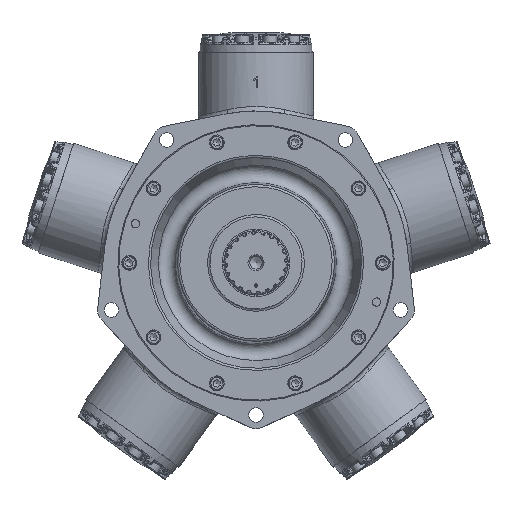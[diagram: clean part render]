
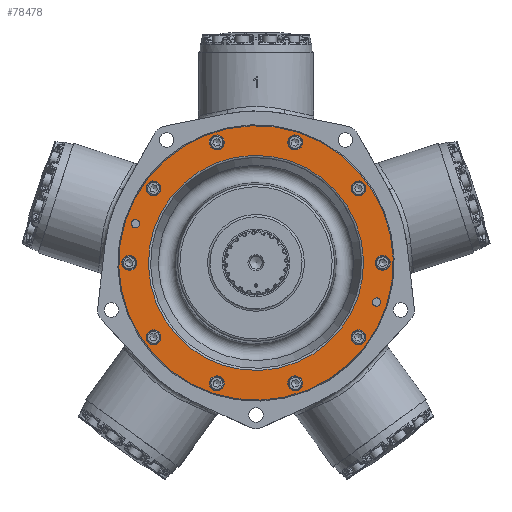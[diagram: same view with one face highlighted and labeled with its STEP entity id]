
A CAD part, top view. The second image highlights one B-rep face of the part: STEP entity #78478.
In plain terms, the highlighted planar face has unit normal (0, 0, 1).
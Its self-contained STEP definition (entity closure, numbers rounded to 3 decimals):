
#1834=FACE_BOUND('',#19168,.T.);
#1835=FACE_BOUND('',#19169,.T.);
#1836=FACE_BOUND('',#19170,.T.);
#1837=FACE_BOUND('',#19171,.T.);
#1838=FACE_BOUND('',#19172,.T.);
#1839=FACE_BOUND('',#19173,.T.);
#1840=FACE_BOUND('',#19174,.T.);
#1841=FACE_BOUND('',#19175,.T.);
#1842=FACE_BOUND('',#19176,.T.);
#1843=FACE_BOUND('',#19177,.T.);
#1844=FACE_BOUND('',#19178,.T.);
#1845=FACE_BOUND('',#19179,.T.);
#1846=FACE_BOUND('',#19180,.T.);
#10575=PLANE('',#84529);
#14321=FACE_OUTER_BOUND('',#19167,.T.);
#19167=EDGE_LOOP('',(#61462));
#19168=EDGE_LOOP('',(#61463));
#19169=EDGE_LOOP('',(#61464));
#19170=EDGE_LOOP('',(#61465));
#19171=EDGE_LOOP('',(#61466));
#19172=EDGE_LOOP('',(#61467));
#19173=EDGE_LOOP('',(#61468));
#19174=EDGE_LOOP('',(#61469));
#19175=EDGE_LOOP('',(#61470));
#19176=EDGE_LOOP('',(#61471));
#19177=EDGE_LOOP('',(#61472));
#19178=EDGE_LOOP('',(#61473));
#19179=EDGE_LOOP('',(#61474));
#19180=EDGE_LOOP('',(#61475));
#23062=CIRCLE('',#84493,5.664);
#23064=CIRCLE('',#84496,5.664);
#23067=CIRCLE('',#84500,10.319);
#23068=CIRCLE('',#84502,10.319);
#23070=CIRCLE('',#84505,10.319);
#23071=CIRCLE('',#84507,10.319);
#23073=CIRCLE('',#84510,10.319);
#23074=CIRCLE('',#84512,10.319);
#23076=CIRCLE('',#84515,10.319);
#23077=CIRCLE('',#84517,10.319);
#23079=CIRCLE('',#84520,10.319);
#23080=CIRCLE('',#84522,10.319);
#23081=CIRCLE('',#84524,189.179);
#23085=CIRCLE('',#84530,148.273);
#32423=VERTEX_POINT('',#193913);
#32425=VERTEX_POINT('',#193919);
#32428=VERTEX_POINT('',#193927);
#32429=VERTEX_POINT('',#193931);
#32431=VERTEX_POINT('',#193937);
#32432=VERTEX_POINT('',#193941);
#32434=VERTEX_POINT('',#193947);
#32435=VERTEX_POINT('',#193951);
#32437=VERTEX_POINT('',#193957);
#32438=VERTEX_POINT('',#193961);
#32440=VERTEX_POINT('',#193967);
#32441=VERTEX_POINT('',#193971);
#32442=VERTEX_POINT('',#193975);
#32446=VERTEX_POINT('',#193987);
#42422=EDGE_CURVE('',#32423,#32423,#23062,.T.);
#42425=EDGE_CURVE('',#32425,#32425,#23064,.T.);
#42430=EDGE_CURVE('',#32428,#32428,#23067,.T.);
#42432=EDGE_CURVE('',#32429,#32429,#23068,.T.);
#42435=EDGE_CURVE('',#32431,#32431,#23070,.T.);
#42437=EDGE_CURVE('',#32432,#32432,#23071,.T.);
#42440=EDGE_CURVE('',#32434,#32434,#23073,.T.);
#42442=EDGE_CURVE('',#32435,#32435,#23074,.T.);
#42445=EDGE_CURVE('',#32437,#32437,#23076,.T.);
#42447=EDGE_CURVE('',#32438,#32438,#23077,.T.);
#42450=EDGE_CURVE('',#32440,#32440,#23079,.T.);
#42452=EDGE_CURVE('',#32441,#32441,#23080,.T.);
#42453=EDGE_CURVE('',#32442,#32442,#23081,.T.);
#42459=EDGE_CURVE('',#32446,#32446,#23085,.T.);
#61462=ORIENTED_EDGE('',*,*,#42453,.F.);
#61463=ORIENTED_EDGE('',*,*,#42422,.T.);
#61464=ORIENTED_EDGE('',*,*,#42425,.T.);
#61465=ORIENTED_EDGE('',*,*,#42430,.T.);
#61466=ORIENTED_EDGE('',*,*,#42432,.T.);
#61467=ORIENTED_EDGE('',*,*,#42435,.T.);
#61468=ORIENTED_EDGE('',*,*,#42437,.T.);
#61469=ORIENTED_EDGE('',*,*,#42440,.T.);
#61470=ORIENTED_EDGE('',*,*,#42442,.T.);
#61471=ORIENTED_EDGE('',*,*,#42445,.T.);
#61472=ORIENTED_EDGE('',*,*,#42447,.T.);
#61473=ORIENTED_EDGE('',*,*,#42450,.T.);
#61474=ORIENTED_EDGE('',*,*,#42452,.T.);
#61475=ORIENTED_EDGE('',*,*,#42459,.F.);
#78478=ADVANCED_FACE('',(#14321,#1834,#1835,#1836,#1837,#1838,#1839,#1840,
#1841,#1842,#1843,#1844,#1845,#1846),#10575,.T.);
#84493=AXIS2_PLACEMENT_3D('',#193914,#97756,#97757);
#84496=AXIS2_PLACEMENT_3D('',#193920,#97763,#97764);
#84500=AXIS2_PLACEMENT_3D('',#193929,#97773,#97774);
#84502=AXIS2_PLACEMENT_3D('',#193933,#97778,#97779);
#84505=AXIS2_PLACEMENT_3D('',#193939,#97785,#97786);
#84507=AXIS2_PLACEMENT_3D('',#193943,#97790,#97791);
#84510=AXIS2_PLACEMENT_3D('',#193949,#97797,#97798);
#84512=AXIS2_PLACEMENT_3D('',#193953,#97802,#97803);
#84515=AXIS2_PLACEMENT_3D('',#193959,#97809,#97810);
#84517=AXIS2_PLACEMENT_3D('',#193963,#97814,#97815);
#84520=AXIS2_PLACEMENT_3D('',#193969,#97821,#97822);
#84522=AXIS2_PLACEMENT_3D('',#193973,#97826,#97827);
#84524=AXIS2_PLACEMENT_3D('',#193976,#97830,#97831);
#84529=AXIS2_PLACEMENT_3D('',#193986,#97842,#97843);
#84530=AXIS2_PLACEMENT_3D('',#193988,#97844,#97845);
#97756=DIRECTION('center_axis',(0.,0.,
-1.));
#97757=DIRECTION('ref_axis',(-0.309,-0.951,0.));
#97763=DIRECTION('center_axis',(0.,0.,
-1.));
#97764=DIRECTION('ref_axis',(-0.309,-0.951,0.));
#97773=DIRECTION('center_axis',(0.,0.,
-1.));
#97774=DIRECTION('ref_axis',(0.809,0.588,0.));
#97778=DIRECTION('center_axis',(0.,0.,
-1.));
#97779=DIRECTION('ref_axis',(1.,0.,0.));
#97785=DIRECTION('center_axis',(0.,0.,
-1.));
#97786=DIRECTION('ref_axis',(0.809,-0.588,0.));
#97790=DIRECTION('center_axis',(0.,0.,
-1.));
#97791=DIRECTION('ref_axis',(0.309,-0.951,0.));
#97797=DIRECTION('center_axis',(0.,0.,
-1.));
#97798=DIRECTION('ref_axis',(-0.309,-0.951,0.));
#97802=DIRECTION('center_axis',(0.,0.,
-1.));
#97803=DIRECTION('ref_axis',(-0.809,-0.588,0.));
#97809=DIRECTION('center_axis',(0.,0.,
-1.));
#97810=DIRECTION('ref_axis',(-1.,0.,0.));
#97814=DIRECTION('center_axis',(0.,0.,
-1.));
#97815=DIRECTION('ref_axis',(-0.809,0.588,0.));
#97821=DIRECTION('center_axis',(0.,0.,
-1.));
#97822=DIRECTION('ref_axis',(-0.309,0.951,0.));
#97826=DIRECTION('center_axis',(0.,0.,
-1.));
#97827=DIRECTION('ref_axis',(0.309,0.951,0.));
#97830=DIRECTION('center_axis',(0.,0.,
-1.));
#97831=DIRECTION('ref_axis',(-0.951,0.309,0.));
#97842=DIRECTION('center_axis',(0.,0.,
1.));
#97843=DIRECTION('ref_axis',(-0.309,-0.951,0.));
#97844=DIRECTION('center_axis',(0.,0.,
1.));
#97845=DIRECTION('ref_axis',(-0.951,0.309,0.));
#193913=CARTESIAN_POINT('',(167.829,-48.575,19.664));
#193914=CARTESIAN_POINT('Origin',(166.078,-53.962,19.664));
#193919=CARTESIAN_POINT('',(-164.328,59.349,19.664));
#193920=CARTESIAN_POINT('Origin',(-166.078,53.962,19.664));
#193927=CARTESIAN_POINT('',(-149.623,-108.707,19.664));
#193929=CARTESIAN_POINT('Origin',(-141.275,-102.642,19.664));
#193931=CARTESIAN_POINT('',(-184.944,0.,19.664));
#193933=CARTESIAN_POINT('Origin',(-174.625,0.,19.664));
#193937=CARTESIAN_POINT('',(-149.623,108.707,19.664));
#193939=CARTESIAN_POINT('Origin',(-141.275,102.642,19.664));
#193941=CARTESIAN_POINT('',(-57.151,175.892,19.664));
#193943=CARTESIAN_POINT('Origin',(-53.962,166.078,19.664));
#193947=CARTESIAN_POINT('',(57.151,175.892,19.664));
#193949=CARTESIAN_POINT('Origin',(53.962,166.078,19.664));
#193951=CARTESIAN_POINT('',(149.623,108.707,19.664));
#193953=CARTESIAN_POINT('Origin',(141.275,102.642,19.664));
#193957=CARTESIAN_POINT('',(184.944,0.,19.664));
#193959=CARTESIAN_POINT('Origin',(174.625,0.,19.664));
#193961=CARTESIAN_POINT('',(149.623,-108.707,19.664));
#193963=CARTESIAN_POINT('Origin',(141.275,-102.642,19.664));
#193967=CARTESIAN_POINT('',(57.151,-175.892,19.664));
#193969=CARTESIAN_POINT('Origin',(53.962,-166.078,19.664));
#193971=CARTESIAN_POINT('',(-57.151,-175.892,19.664));
#193973=CARTESIAN_POINT('Origin',(-53.962,-166.078,19.664));
#193975=CARTESIAN_POINT('',(179.92,-58.459,19.664));
#193976=CARTESIAN_POINT('Origin',(0.,0.,
19.664));
#193986=CARTESIAN_POINT('Origin',(161.549,-52.49,19.664));
#193987=CARTESIAN_POINT('',(45.819,141.016,19.664));
#193988=CARTESIAN_POINT('Origin',(0.,0.,
19.664));
